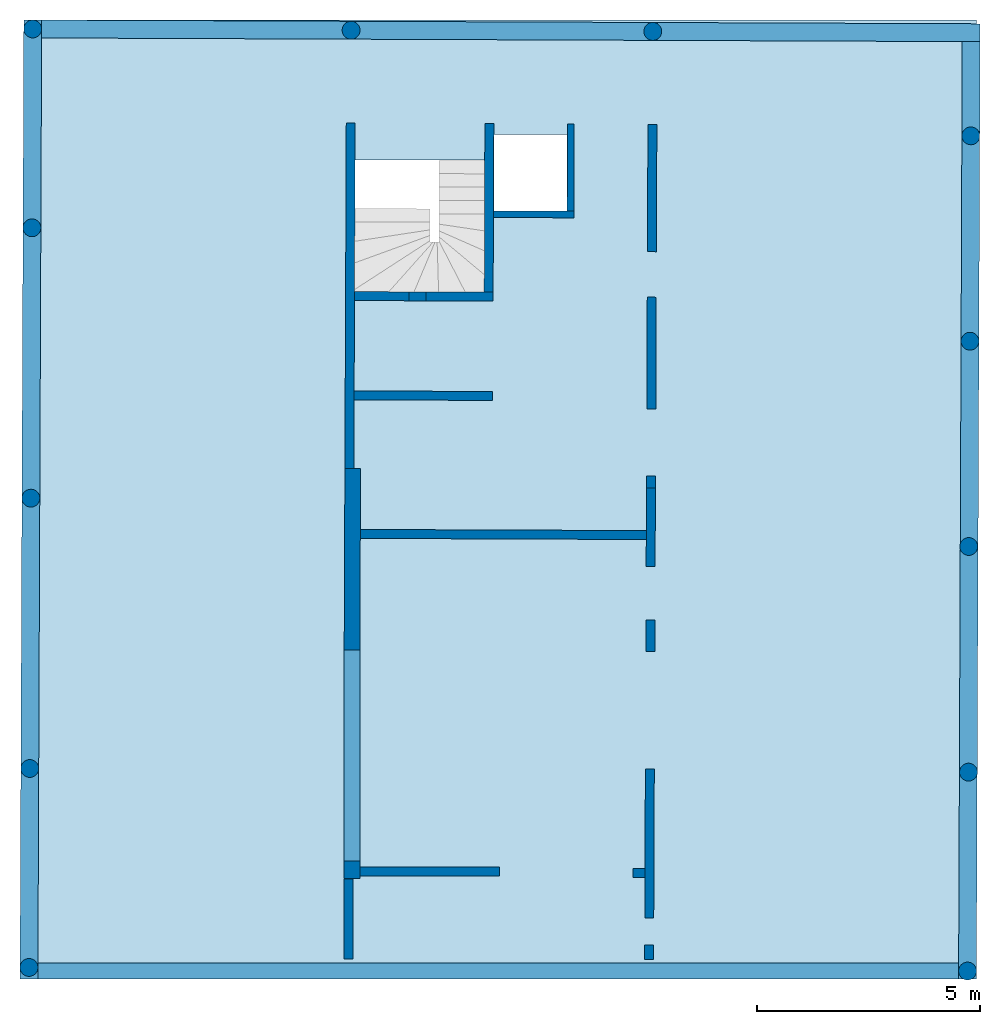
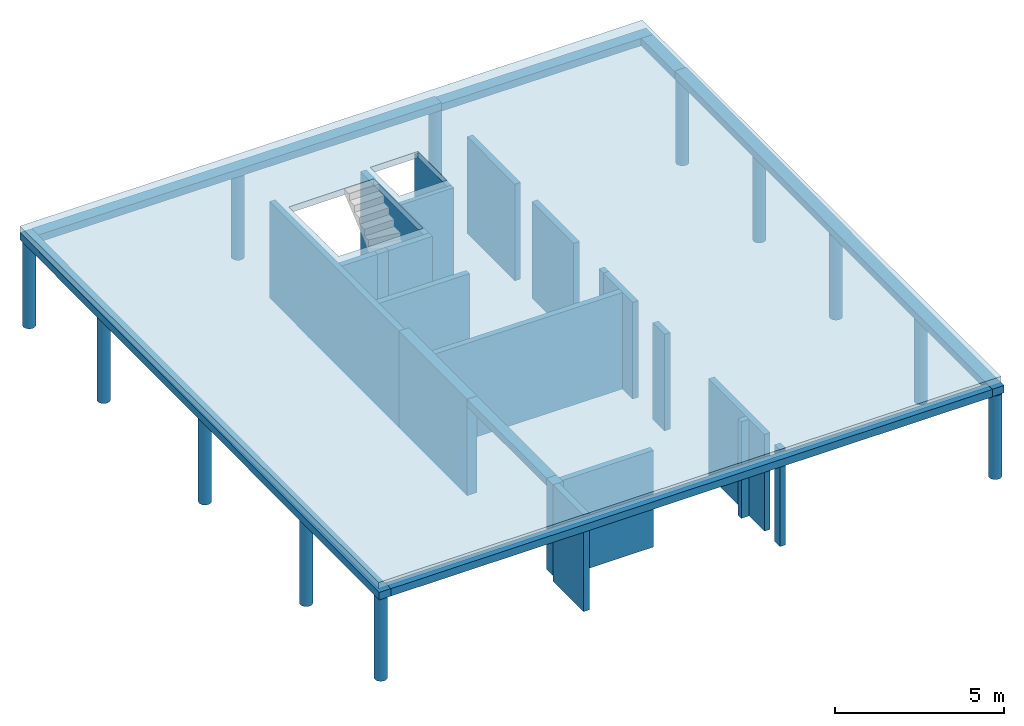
# One storey, part 1 of 2: 20 walls, 13 columns, 7 beams, 1 slab, 2 openings.
"""IFC2X3 building model written with IfcOpenShell, lengths in millimetres."""

import ifcopenshell
import ifcopenshell.guid

model = None  # the IFC model being written
_history = None  # IfcOwnerHistory: only IFC2X3 demands one
_inside = {}  # id of a spatial element -> (the spatial element, [elements in it])
_under = {}  # id of a project, library or spatial element -> (it, [spatial elements below it])
_declared = {}  # id of a project -> (the project, [libraries it declares])
_typed = {}  # id of a type object -> (the type object, [elements of that type])
_made_of = {}  # id of a material, layer set ... -> (it, [elements and type objects made of it])


def new_model(schema):
    """Start an empty IFC model of exactly this schema.

    Asked for "IFC4X3", IfcOpenShell would pick the latest addendum, in which some entities
    have other attributes; the version numbers below select the first issue.
    IFC2X3 requires an IfcOwnerHistory on every rooted entity: one is made here for all.
    """
    global model, _history
    if schema == "IFC4X3":
        model = ifcopenshell.file(schema_version=(4, 3, 0, 0))
    else:
        model = ifcopenshell.file(schema=schema)
    _inside.clear()
    _under.clear()
    _declared.clear()
    _typed.clear()
    _made_of.clear()
    _history = None
    if model.schema == "IFC2X3":
        org = make("IfcOrganization", Name="unknown")
        user = make(
            "IfcPersonAndOrganization",
            ThePerson=make("IfcPerson", FamilyName="unknown"),
            TheOrganization=org,
        )
        app = make(
            "IfcApplication",
            ApplicationDeveloper=org,
            Version="unknown",
            ApplicationFullName="unknown",
            ApplicationIdentifier="unknown",
        )
        _history = make(
            "IfcOwnerHistory",
            OwningUser=user,
            OwningApplication=app,
            ChangeAction="ADDED",
            CreationDate=0,
        )
    return model


def make(cls, **values):
    """One entity of the class cls with the attributes given. An attribute that is None is left unset."""
    return model.create_entity(
        cls, **{name: value for name, value in values.items() if value is not None}
    )


def entity(cls, *values):
    """Any entity or typed value of the class cls, its attributes in the order of the schema. None: left unset."""
    e = model.create_entity(cls)
    for i, value in enumerate(values):
        if value is not None:
            e[i] = value
    return e


def rooted(cls, **values):
    """An entity with a GlobalId (a new one), such as an element, a storey or a relation."""
    return make(cls, GlobalId=ifcopenshell.guid.new(), OwnerHistory=_history, **values)


def si_unit(unit_type, name, prefix=None):
    """IfcSIUnit, for example si_unit("LENGTHUNIT", "METRE", prefix="MILLI")."""
    return make("IfcSIUnit", UnitType=unit_type, Prefix=prefix, Name=name)


def converted_unit(unit_type, name, factor, base, dimensions=None, offset=None):
    """IfcConversionBasedUnit, such as the inch: factor (a typed value) times the base unit."""
    return make(
        "IfcConversionBasedUnit"
        if offset is None
        else "IfcConversionBasedUnitWithOffset",
        ConversionOffset=offset,
        Dimensions=None
        if dimensions is None
        else entity("IfcDimensionalExponents", *dimensions),
        UnitType=unit_type,
        Name=name,
        ConversionFactor=make(
            "IfcMeasureWithUnit", ValueComponent=factor, UnitComponent=base
        ),
    )


def assignment(units):
    """IfcUnitAssignment: the units of a project."""
    return None if units is None else make("IfcUnitAssignment", Units=units)


def point(xyz):
    """IfcCartesianPoint."""
    return None if xyz is None else make("IfcCartesianPoint", Coordinates=xyz)


def direction(xyz):
    """IfcDirection."""
    return None if xyz is None else make("IfcDirection", DirectionRatios=xyz)


def frame(location, z_axis=None, x_axis=None):
    """IfcAxis2Placement3D, a coordinate frame: its origin and axes. An axis left out is left unset."""
    return make(
        "IfcAxis2Placement3D",
        Location=point(location),
        Axis=direction(z_axis),
        RefDirection=direction(x_axis),
    )


def frame_2d(location, x_axis=None):
    """IfcAxis2Placement2D, a coordinate frame in the plane: its origin and x axis."""
    return make(
        "IfcAxis2Placement2D", Location=point(location), RefDirection=direction(x_axis)
    )


def origin():
    """The frame at (0, 0, 0) with its axes left unset."""
    return frame((0.0, 0.0, 0.0))


def origin_with_axes():
    """The frame at (0, 0, 0) with the z axis (0, 0, 1) and the x axis (1, 0, 0) written out."""
    return frame((0.0, 0.0, 0.0), z_axis=(0.0, 0.0, 1.0), x_axis=(1.0, 0.0, 0.0))


def place(relative_to, where):
    """IfcLocalPlacement: puts the frame where relative to a parent placement (None: the world)."""
    return make(
        "IfcLocalPlacement", PlacementRelTo=relative_to, RelativePlacement=where
    )


def context(
    kind, dimensions, precision=None, world=None, true_north=None, identifier=None
):
    """IfcGeometricRepresentationContext, for example the 3D "Model" context."""
    return make(
        "IfcGeometricRepresentationContext",
        ContextIdentifier=identifier,
        ContextType=kind,
        CoordinateSpaceDimension=dimensions,
        Precision=precision,
        WorldCoordinateSystem=world,
        TrueNorth=true_north,
    )


def subcontext(parent, identifier, kind, view, scale=None):
    """IfcGeometricRepresentationSubContext, for example "Body" below "Model"."""
    return make(
        "IfcGeometricRepresentationSubContext",
        ContextIdentifier=identifier,
        ContextType=kind,
        ParentContext=parent,
        TargetScale=scale,
        TargetView=view,
    )


def project(units=None, contexts=None):
    """IfcProject with its units and contexts."""
    return rooted(
        "IfcProject",
        Name="project",
        RepresentationContexts=contexts,
        UnitsInContext=assignment(units),
    )


def spatial(cls, under=None, at=None, **own):
    """A site, building, storey or space (cls), placed at a placement, below another one or the project."""
    s = rooted(cls, ObjectPlacement=at, **own)
    if under is not None:
        _under.setdefault(under.id(), (under, []))[1].append(s)
    return s


def polyline(points):
    """IfcPolyline through the points."""
    return make("IfcPolyline", Points=[point(p) for p in points])


def profile(cls, at=None, kind="AREA", **sizes):
    """A parametric profile (cls). Its sizes go by their IFC names, for example OverallWidth=200.0."""
    return make(cls, ProfileType=kind, Position=at, **sizes)


def rectangle(**sizes):
    """IfcRectangleProfileDef."""
    return profile("IfcRectangleProfileDef", **sizes)


def circle(**sizes):
    """IfcCircleProfileDef."""
    return profile("IfcCircleProfileDef", **sizes)


def outline(outer, holes=None, kind="AREA"):
    """IfcArbitraryClosedProfileDef: a profile drawn as a closed curve; with holes, ...WithVoids."""
    if holes is None:
        return make("IfcArbitraryClosedProfileDef", ProfileType=kind, OuterCurve=outer)
    return make(
        "IfcArbitraryProfileDefWithVoids",
        ProfileType=kind,
        OuterCurve=outer,
        InnerCurves=holes,
    )


def extrude(swept, where, along, depth):
    """IfcExtrudedAreaSolid: the profile swept, set in the frame where, extruded along a direction by depth."""
    return make(
        "IfcExtrudedAreaSolid",
        SweptArea=swept,
        Position=where,
        ExtrudedDirection=direction(along),
        Depth=depth,
    )


def faces_of(points, faces, orient=None, outer=None):
    """IfcFace entities. A face is a list of loops; a loop is a list of indices into points, from 0.

    orient and outer hold one flag for each loop. By default every Orientation is true, the
    first loop of a face is its IfcFaceOuterBound and the others are IfcFaceBound.
    """
    made = []
    for i, loops in enumerate(faces):
        bounds = []
        for j, loop in enumerate(loops):
            is_outer = j == 0 if outer is None else outer[i][j]
            bounds.append(
                make(
                    "IfcFaceOuterBound" if is_outer else "IfcFaceBound",
                    Bound=make("IfcPolyLoop", Polygon=[points[k] for k in loop]),
                    Orientation=True if orient is None else orient[i][j],
                )
            )
        made.append(make("IfcFace", Bounds=bounds))
    return made


def faceted_brep(points, faces, orient=None, outer=None, voids=None):
    """IfcFacetedBrep: a solid bounded by flat faces; with voids (closed shells), ...WithVoids."""
    shared = [point(p) for p in points]
    hull = make("IfcClosedShell", CfsFaces=faces_of(shared, faces, orient, outer))
    if voids is None:
        return make("IfcFacetedBrep", Outer=hull)
    return make(
        "IfcFacetedBrepWithVoids",
        Outer=hull,
        Voids=[
            make(cls, CfsFaces=faces_of(shared, fs, o, b)) for cls, fs, o, b in voids
        ],
    )


def shape(context_of_items, identifier, shape_type, items):
    """IfcShapeRepresentation: the items that make up one representation, for example the "Body"."""
    return make(
        "IfcShapeRepresentation",
        ContextOfItems=context_of_items,
        RepresentationIdentifier=identifier,
        RepresentationType=shape_type,
        Items=items,
    )


def material(Name=None, Category=None):
    """IfcMaterial."""
    return make("IfcMaterial", Name=Name, Category=Category)


def layer(
    of_material, thickness, ventilated=None, Name=None, Category=None, Priority=None
):
    """IfcMaterialLayer: one layer of a wall or slab, of a material (None: an air gap)."""
    return make(
        "IfcMaterialLayer",
        Material=of_material,
        LayerThickness=thickness,
        IsVentilated=ventilated,
        Name=Name,
        Category=Category,
        Priority=Priority,
    )


def layer_set(layers, Name=None):
    """IfcMaterialLayerSet."""
    return make("IfcMaterialLayerSet", MaterialLayers=layers, LayerSetName=Name)


def layer_usage(for_layer_set, set_direction, sense, offset, extent=None):
    """IfcMaterialLayerSetUsage: how a layer set lies in its element."""
    return make(
        "IfcMaterialLayerSetUsage",
        ForLayerSet=for_layer_set,
        LayerSetDirection=set_direction,
        DirectionSense=sense,
        OffsetFromReferenceLine=offset,
        ReferenceExtent=extent,
    )


def made_of(thing, what):
    """Note that an element or type object is made of a material, layer set ...; save() writes the relation."""
    if what is not None:
        _made_of.setdefault(what.id(), (what, []))[1].append(thing)
    return thing


def element(
    cls,
    number,
    at=None,
    inside=None,
    cuts=None,
    type_object=None,
    material=None,
    context=None,
    identifier="Body",
    shape_type=None,
    held_by="IfcProductDefinitionShape",
    body=None,
    shapes=None,
    **own,
):
    """One element of the class cls, such as IfcWall. Its Tag is "e" and its number.

    at: its placement. inside: the storey or other place that contains it. cuts: it is an
    opening in that element (IfcRelVoidsElement). A single representation is given by context,
    identifier, shape_type and body (its items); several are given by shapes. held_by: the class
    of the entity that holds the representations. save() writes the other relations.
    """
    e = rooted(cls, Tag="e%d" % number, ObjectPlacement=at, **own)
    if body is not None:
        shapes = [shape(context, identifier, shape_type, body)]
    if shapes is not None:
        e.Representation = make(held_by, Representations=shapes)
    if inside is not None:
        _inside.setdefault(inside.id(), (inside, []))[1].append(e)
    if cuts is not None:
        rooted(
            "IfcRelVoidsElement", RelatingBuildingElement=cuts, RelatedOpeningElement=e
        )
    if type_object is not None:
        _typed.setdefault(type_object.id(), (type_object, []))[1].append(e)
    return made_of(e, material)


def aggregate(whole, parts):
    """IfcRelAggregates: a whole, such as a stair, and the parts it consists of."""
    return rooted("IfcRelAggregates", RelatingObject=whole, RelatedObjects=parts)


def save(model, path):
    """Write the relations noted so far, then the file.

    IfcRelAggregates (storeys below a building ...), IfcRelContainedInSpatialStructure (elements
    in a storey), IfcRelDefinesByType, IfcRelAssociatesMaterial and IfcRelDeclares: one each for
    every whole, place, type object, material and project.
    """
    for whole, parts in _under.values():
        aggregate(whole, parts)
    for where, things in _inside.values():
        rooted(
            "IfcRelContainedInSpatialStructure",
            RelatedElements=things,
            RelatingStructure=where,
        )
    for kind, things in _typed.values():
        rooted("IfcRelDefinesByType", RelatedObjects=things, RelatingType=kind)
    for what, things in _made_of.values():
        rooted("IfcRelAssociatesMaterial", RelatedObjects=things, RelatingMaterial=what)
    for by, libraries in _declared.values():
        rooted("IfcRelDeclares", RelatingContext=by, RelatedDefinitions=libraries)
    model.write(path)


model = new_model("IFC2X3")

# Units and contexts
model_context = context("Model", 3, precision=1e-05, world=origin())
body_context = subcontext(model_context, "Body", "Model", "MODEL_VIEW")
ifc_project = project(units=[si_unit("LENGTHUNIT", "METRE", prefix="MILLI"), converted_unit("PLANEANGLEUNIT", "DEGREE", entity("IfcPlaneAngleMeasure", 0.0174532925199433), si_unit("PLANEANGLEUNIT", "RADIAN"), dimensions=[0, 0, 0, 0, 0, 0, 0]), si_unit("AREAUNIT", "SQUARE_METRE"), si_unit("VOLUMEUNIT", "CUBIC_METRE")], contexts=[model_context])

# Building, storey
building_placement = place(None, origin())
building = spatial("IfcBuilding", under=ifc_project, at=building_placement, Name="Bâtiment", CompositionType="ELEMENT")
storey_placement = place(building_placement, frame((0.0, 0.0, 1760.0), z_axis=(0.0, 0.0, 1.0), x_axis=(1.0, 0.0, 0.0)))
storey = spatial("IfcBuildingStorey", under=building, at=storey_placement, Name="Rez-de-chaussée", CompositionType="ELEMENT", Elevation=1760.0)

# Columns
ifc_material_1 = material(Name="<Unnamed Material>")
column_1_placement = place(storey_placement, frame((4824.08369014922, -29850.54508796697, 0.0), z_axis=(0.0, 0.0, 1.0), x_axis=(1.0, 0.0, 0.0)))
element("IfcColumn", 1, at=column_1_placement, inside=storey, material=ifc_material_1, Name="<Unnamed Element>", context=body_context, shape_type="SweptSolid", body=[
    extrude(rectangle(XDim=352.0, YDim=400.0, at=frame_2d((176.0, 200.0), x_axis=(1.0, 0.0))), origin_with_axes(), (0.0, 0.0, 1.0), 3299.999999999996),
])
ifc_material_2 = material(Name="<Unnamed Material>")
column_2_placement = place(storey_placement, frame((18573.58631007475, -32115.91258137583, 0.0), z_axis=(0.0, 0.0, 1.0), x_axis=(1.0, 0.0, 0.0)))
element("IfcColumn", 2, at=column_2_placement, inside=storey, material=ifc_material_2, Name="<Unnamed Element>", context=body_context, shape_type="SweptSolid", body=[
    extrude(circle(Radius=200.0000000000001, at=frame_2d((199.1744731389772, 199.1744731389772), x_axis=(1.0, 0.0))), origin_with_axes(), (0.0, 0.0, 1.0), 3029.999999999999),
])
ifc_material_3 = material(Name="<Unnamed Material>")
column_3_placement = place(storey_placement, frame((18595.41901068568, -27664.52265680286, 0.0), z_axis=(0.0, 0.0, 1.0), x_axis=(1.0, 0.0, 0.0)))
element("IfcColumn", 3, at=column_3_placement, inside=storey, material=ifc_material_3, Name="<Unnamed Element>", context=body_context, shape_type="SweptSolid", body=[
    extrude(circle(Radius=200.0000000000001, at=frame_2d((199.1744731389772, 199.1744731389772), x_axis=(1.0, 0.0))), origin_with_axes(), (0.0, 0.0, 1.0), 3029.999999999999),
])
ifc_material_4 = material(Name="<Unnamed Material>")
column_4_placement = place(storey_placement, frame((18600.61037819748, -22616.15837801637, 0.0), z_axis=(0.0, 0.0, 1.0), x_axis=(1.0, 0.0, 0.0)))
element("IfcColumn", 4, at=column_4_placement, inside=storey, material=ifc_material_4, Name="<Unnamed Element>", context=body_context, shape_type="SweptSolid", body=[
    extrude(circle(Radius=200.0000000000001, at=frame_2d((199.1744731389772, 199.1744731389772), x_axis=(1.0, 0.0))), origin_with_axes(), (0.0, 0.0, 1.0), 3029.999999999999),
])
ifc_material_5 = material(Name="<Unnamed Material>")
column_5_placement = place(storey_placement, frame((18628.31706573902, -18021.95664196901, 0.0), z_axis=(0.0, 0.0, 1.0), x_axis=(1.0, 0.0, 0.0)))
element("IfcColumn", 5, at=column_5_placement, inside=storey, material=ifc_material_5, Name="<Unnamed Element>", context=body_context, shape_type="SweptSolid", body=[
    extrude(circle(Radius=200.0000000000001, at=frame_2d((199.1744731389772, 199.1744731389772), x_axis=(1.0, 0.0))), origin_with_axes(), (0.0, 0.0, 1.0), 3029.999999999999),
])
ifc_material_6 = material(Name="<Unnamed Material>")
column_6_placement = place(storey_placement, frame((18646.50568336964, -13426.62232765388, 0.0), z_axis=(0.0, 0.0, 1.0), x_axis=(1.0, 0.0, 0.0)))
element("IfcColumn", 6, at=column_6_placement, inside=storey, material=ifc_material_6, Name="<Unnamed Element>", context=body_context, shape_type="SweptSolid", body=[
    extrude(circle(Radius=200.0000000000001, at=frame_2d((199.1744731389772, 199.1744731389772), x_axis=(1.0, 0.0))), origin_with_axes(), (0.0, 0.0, 1.0), 3029.999999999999),
])
ifc_material_7 = material(Name="<Unnamed Material>")
column_7_placement = place(storey_placement, frame((11529.83394445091, -11090.19700913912, 0.0), z_axis=(0.0, 0.0, 1.0), x_axis=(1.0, 0.0, 0.0)))
element("IfcColumn", 7, at=column_7_placement, inside=storey, material=ifc_material_7, Name="<Unnamed Element>", context=body_context, shape_type="SweptSolid", body=[
    extrude(circle(Radius=200.0000000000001, at=frame_2d((199.1744731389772, 199.1744731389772), x_axis=(1.0, 0.0))), origin_with_axes(), (0.0, 0.0, 1.0), 3029.999999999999),
])
ifc_material_8 = material(Name="<Unnamed Material>")
column_8_placement = place(storey_placement, frame((4779.729891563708, -11063.47967952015, 0.0), z_axis=(0.0, 0.0, 1.0), x_axis=(1.0, 0.0, 0.0)))
element("IfcColumn", 8, at=column_8_placement, inside=storey, material=ifc_material_8, Name="<Unnamed Element>", context=body_context, shape_type="SweptSolid", body=[
    extrude(circle(Radius=200.0000000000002, at=frame_2d((199.1744731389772, 199.1744731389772), x_axis=(1.0, 0.0))), origin_with_axes(), (0.0, 0.0, 1.0), 3029.999999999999),
])
ifc_material_9 = material(Name="<Unnamed Material>")
column_9_placement = place(storey_placement, frame((-2344.862463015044, -11035.28010202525, 0.0), z_axis=(0.0, 0.0, 1.0), x_axis=(1.0, 0.0, 0.0)))
element("IfcColumn", 9, at=column_9_placement, inside=storey, material=ifc_material_9, Name="<Unnamed Element>", context=body_context, shape_type="SweptSolid", body=[
    extrude(circle(Radius=200.0000000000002, at=frame_2d((199.1744731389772, 199.1744731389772), x_axis=(1.0, 0.0))), origin_with_axes(), (0.0, 0.0, 1.0), 3029.999999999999),
])
ifc_material_10 = material(Name="<Unnamed Material>")
column_10_placement = place(storey_placement, frame((-2362.472904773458, -15484.5389157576, 0.0), z_axis=(0.0, 0.0, 1.0), x_axis=(1.0, 0.0, 0.0)))
element("IfcColumn", 10, at=column_10_placement, inside=storey, material=ifc_material_10, Name="<Unnamed Element>", context=body_context, shape_type="SweptSolid", body=[
    extrude(circle(Radius=200.0000000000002, at=frame_2d((199.1744731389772, 199.1744731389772), x_axis=(1.0, 0.0))), origin_with_axes(), (0.0, 0.0, 1.0), 3029.999999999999),
])
ifc_material_11 = material(Name="<Unnamed Material>")
column_11_placement = place(storey_placement, frame((-2386.417100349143, -21534.0136912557, 0.0), z_axis=(0.0, 0.0, 1.0), x_axis=(1.0, 0.0, 0.0)))
element("IfcColumn", 11, at=column_11_placement, inside=storey, material=ifc_material_11, Name="<Unnamed Element>", context=body_context, shape_type="SweptSolid", body=[
    extrude(circle(Radius=200.0000000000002, at=frame_2d((199.1744731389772, 199.1744731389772), x_axis=(1.0, 0.0))), origin_with_axes(), (0.0, 0.0, 1.0), 3029.999999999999),
])
ifc_material_12 = material(Name="<Unnamed Material>")
column_12_placement = place(storey_placement, frame((-2427.980234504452, -32034.89399305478, 0.0), z_axis=(0.0, 0.0, 1.0), x_axis=(1.0, 0.0, 0.0)))
element("IfcColumn", 12, at=column_12_placement, inside=storey, material=ifc_material_12, Name="<Unnamed Element>", context=body_context, shape_type="SweptSolid", body=[
    extrude(circle(Radius=200.0000000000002, at=frame_2d((199.1744731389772, 199.1744731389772), x_axis=(1.0, 0.0))), origin_with_axes(), (0.0, 0.0, 1.0), 3029.999999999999),
])
ifc_material_13 = material(Name="<Unnamed Material>")
column_13_placement = place(storey_placement, frame((-2410.361295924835, -27583.4884667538, 0.0), z_axis=(0.0, 0.0, 1.0), x_axis=(1.0, 0.0, 0.0)))
element("IfcColumn", 13, at=column_13_placement, inside=storey, material=ifc_material_13, Name="<Unnamed Element>", context=body_context, shape_type="SweptSolid", body=[
    extrude(circle(Radius=200.0000000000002, at=frame_2d((199.1744731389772, 199.1744731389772), x_axis=(1.0, 0.0))), origin_with_axes(), (0.0, 0.0, 1.0), 3029.999999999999),
])

# Beams
ifc_material_14 = material(Name="<Unnamed Material>")
beam_1_placement = place(storey_placement, frame((4824.08369014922, -24734.51704689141, 3030.0), z_axis=(0.0, 0.0, 1.0), x_axis=(0.0, -1.0, 0.0)))
element("IfcBeam", 14, at=beam_1_placement, inside=storey, material=ifc_material_14, Name="<Unnamed Element>", context=body_context, shape_type="SweptSolid", body=[
    extrude(rectangle(XDim=270.0, YDim=350.0000000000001, at=frame_2d((135.0, -175.0), x_axis=(1.0, 0.0))), frame((0.0, 0.0, 0.0), z_axis=(1.0, 0.0, 0.0), x_axis=(0.0, 0.0, 1.0)), (0.0, 0.0, 1.0), 4716.028041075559),
])
ifc_material_15 = material(Name="<Unnamed Material>")
beam_2_placement = place(storey_placement, frame((-1946.481162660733, -11036.89566845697, 3040.0), z_axis=(0.0, 0.0, 1.0), x_axis=(0.9999921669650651, -0.003958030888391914, 0.0)))
element("IfcBeam", 15, at=beam_2_placement, inside=storey, material=ifc_material_15, Name="<Unnamed Element>", context=body_context, shape_type="SweptSolid", body=[
    extrude(rectangle(XDim=270.0, YDim=400.0000000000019, at=frame_2d((135.0, -200.0000000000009), x_axis=(1.0, 0.0))), frame((0.0, 0.0, 0.0), z_axis=(1.0, 0.0, 0.0), x_axis=(0.0, 0.0, 1.0)), (0.0, 0.0, 1.0), 13774.80508929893),
])
ifc_material_16 = material(Name="<Unnamed Material>")
beam_3_placement = place(storey_placement, frame((-2029.817532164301, -32091.73810823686, 3030.0), z_axis=(0.0, 0.0, 1.0), x_axis=(0.003958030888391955, 0.999992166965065, 0.0)))
element("IfcBeam", 16, at=beam_3_placement, inside=storey, material=ifc_material_16, Name="<Unnamed Element>", context=body_context, shape_type="Brep", body=[
    faceted_brep([(-1.583224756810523, 400.0000000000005, 0.0), (0.0, 0.0, 0.0), (21455.00736438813, 0.0, 0.0), (21455.00736438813, 400.0, 0.0), (0.0, 0.0, 270.0), (-1.583224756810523, 400.0000000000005, 270.0), (21455.00736438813, 400.0, 270.0), (21455.00736438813, 0.0, 270.0), (0.0, 0.0, 0.0), (-1.583224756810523, 400.0000000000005, 0.0), (-1.583224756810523, 400.0000000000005, 270.0), (0.0, 0.0, 270.0), (21455.00736438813, 0.0, 0.0), (0.0, 0.0, 0.0), (0.0, 0.0, 270.0), (21455.00736438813, 0.0, 270.0), (21455.00736438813, 400.0, 0.0), (21455.00736438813, 0.0, 0.0), (21455.00736438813, 0.0, 270.0), (21455.00736438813, 400.0, 270.0), (-1.583224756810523, 400.0000000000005, 0.0), (21455.00736438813, 400.0, 0.0), (21455.00736438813, 400.0, 270.0), (-1.583224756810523, 400.0000000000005, 270.0)], [[[0, 1, 2, 3]], [[4, 5, 6, 7]], [[8, 9, 10, 11]], [[12, 13, 14, 15]], [[16, 17, 18, 19]], [[20, 21, 22, 23]]], orient=[[False], [False], [False], [False], [False], [False]]),
])
ifc_material_17 = material(Name="<Unnamed Material>")
beam_4_placement = place(storey_placement, frame((18646.06880084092, -13127.4478545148, 3040.0), z_axis=(0.0, 0.0, 1.0), x_axis=(-0.003901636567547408, -0.9999923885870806, 0.0)))
element("IfcBeam", 17, at=beam_4_placement, inside=storey, material=ifc_material_17, Name="<Unnamed Element>", context=body_context, shape_type="Brep", body=[
    faceted_brep([(-0.6488907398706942, 400.0000000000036, 0.0), (0.0, 0.0, 0.0), (18964.43459986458, 0.0, 0.0), (18962.87393335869, 399.9999999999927, 0.0), (0.0, 0.0, 270.0), (-0.6488907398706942, 400.0000000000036, 270.0), (18962.87393335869, 399.9999999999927, 270.0), (18964.43459986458, 0.0, 270.0), (0.0, 0.0, 0.0), (-0.6488907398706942, 400.0000000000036, 0.0), (-0.6488907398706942, 400.0000000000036, 270.0), (0.0, 0.0, 270.0), (18964.43459986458, 0.0, 0.0), (0.0, 0.0, 0.0), (0.0, 0.0, 270.0), (18964.43459986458, 0.0, 270.0), (18962.87393335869, 399.9999999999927, 0.0), (18964.43459986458, 0.0, 0.0), (18964.43459986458, 0.0, 270.0), (18962.87393335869, 399.9999999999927, 270.0), (-0.6488907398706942, 400.0000000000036, 0.0), (18962.87393335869, 399.9999999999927, 0.0), (18962.87393335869, 399.9999999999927, 270.0), (-0.6488907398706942, 400.0000000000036, 270.0)], [[[0, 1, 2, 3]], [[4, 5, 6, 7]], [[8, 9, 10, 11]], [[12, 13, 14, 15]], [[16, 17, 18, 19]], [[20, 21, 22, 23]]], orient=[[False], [False], [False], [False], [False], [False]]),
])
ifc_material_18 = material(Name="<Unnamed Material>")
beam_5_placement = place(storey_placement, frame((19047.65105909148, -10719.98860992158, 3000.0), z_axis=(0.0, 0.0, 1.0), x_axis=(-0.999992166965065, 0.003958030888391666, 0.0)))
element("IfcBeam", 18, at=beam_5_placement, inside=storey, material=ifc_material_18, Name="<Unnamed Element>", context=body_context, shape_type="Brep", body=[
    faceted_brep([(-1.320343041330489, 400.0000000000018, 0.0), (0.0, 0.0, 0.0), (7217.90835675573, 1.818989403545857e-12, 0.0), (7217.90835675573, 400.0000000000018, 0.0), (0.0, 0.0, 270.0), (-1.320343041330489, 400.0000000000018, 270.0), (7217.90835675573, 400.0000000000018, 270.0), (7217.90835675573, 1.818989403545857e-12, 270.0), (0.0, 0.0, 0.0), (-1.320343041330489, 400.0000000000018, 0.0), (-1.320343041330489, 400.0000000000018, 270.0), (0.0, 0.0, 270.0), (7217.90835675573, 1.818989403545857e-12, 0.0), (0.0, 0.0, 0.0), (0.0, 0.0, 270.0), (7217.90835675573, 1.818989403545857e-12, 270.0), (7217.90835675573, 400.0000000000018, 0.0), (7217.90835675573, 1.818989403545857e-12, 0.0), (7217.90835675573, 1.818989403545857e-12, 270.0), (7217.90835675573, 400.0000000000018, 270.0), (-1.320343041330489, 400.0000000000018, 0.0), (7217.90835675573, 400.0000000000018, 0.0), (7217.90835675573, 400.0000000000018, 270.0), (-1.320343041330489, 400.0000000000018, 270.0)], [[[0, 1, 2, 3]], [[4, 5, 6, 7]], [[8, 9, 10, 11]], [[12, 13, 14, 15]], [[16, 17, 18, 19]], [[20, 21, 22, 23]]], orient=[[False], [False], [False], [False], [False], [False]]),
])
ifc_material_19 = material(Name="<Unnamed Material>")
beam_6_placement = place(storey_placement, frame((19046.06828801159, -13128.35962334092, 3000.0), z_axis=(0.0, 0.0, 1.0), x_axis=(0.0006571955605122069, 0.9999997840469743, 0.0)))
element("IfcBeam", 19, at=beam_6_placement, inside=storey, material=ifc_material_19, Name="<Unnamed Element>", context=body_context, shape_type="Brep", body=[
    faceted_brep([(0.6488907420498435, 400.0, 0.0), (0.0, 0.0, 0.0), (2008.369354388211, 0.0, 0.0), (2009.689697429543, 400.0, 0.0), (0.0, 0.0, 270.0), (0.6488907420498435, 400.0, 270.0), (2009.689697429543, 400.0, 270.0), (2008.369354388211, 0.0, 270.0), (0.0, 0.0, 0.0), (0.6488907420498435, 400.0, 0.0), (0.6488907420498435, 400.0, 270.0), (0.0, 0.0, 270.0), (2008.369354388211, 0.0, 0.0), (0.0, 0.0, 0.0), (0.0, 0.0, 270.0), (2008.369354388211, 0.0, 270.0), (2009.689697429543, 400.0, 0.0), (2008.369354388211, 0.0, 0.0), (2008.369354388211, 0.0, 270.0), (2009.689697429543, 400.0, 270.0), (0.6488907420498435, 400.0, 0.0), (2009.689697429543, 400.0, 0.0), (2009.689697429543, 400.0, 270.0), (0.6488907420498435, 400.0, 270.0)], [[[0, 1, 2, 3]], [[4, 5, 6, 7]], [[8, 9, 10, 11]], [[12, 13, 14, 15]], [[16, 17, 18, 19]], [[20, 21, 22, 23]]], orient=[[False], [False], [False], [False], [False], [False]]),
])
ifc_material_20 = material(Name="<Unnamed Material>")
beam_7_placement = place(storey_placement, frame((-2029.817532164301, -32091.73810823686, 3030.0), z_axis=(0.0, 0.0, 1.0), x_axis=(1.0, 0.0, 0.0)))
element("IfcBeam", 20, at=beam_7_placement, inside=storey, material=ifc_material_20, Name="<Unnamed Element>", context=body_context, shape_type="Brep", body=[
    faceted_brep([(1.385321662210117, 350.0, 0.0), (0.0, 0.0, 0.0), (20601.89400148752, 0.0, 0.0), (20603.25958468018, 350.0, 0.0), (0.0, 0.0, 270.0), (1.385321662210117, 350.0, 270.0), (20603.25958468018, 350.0, 270.0), (20601.89400148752, 0.0, 270.0), (0.0, 0.0, 0.0), (1.385321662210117, 350.0, 0.0), (1.385321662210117, 350.0, 270.0), (0.0, 0.0, 270.0), (20601.89400148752, 0.0, 0.0), (0.0, 0.0, 0.0), (0.0, 0.0, 270.0), (20601.89400148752, 0.0, 270.0), (20603.25958468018, 350.0, 0.0), (20601.89400148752, 0.0, 0.0), (20601.89400148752, 0.0, 270.0), (20603.25958468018, 350.0, 270.0), (1.385321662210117, 350.0, 0.0), (20603.25958468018, 350.0, 0.0), (20603.25958468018, 350.0, 270.0), (1.385321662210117, 350.0, 270.0)], [[[0, 1, 2, 3]], [[4, 5, 6, 7]], [[8, 9, 10, 11]], [[12, 13, 14, 15]], [[16, 17, 18, 19]], [[20, 21, 22, 23]]], orient=[[False], [False], [False], [False], [False], [False]]),
])

# Slab, openings
ifc_material_21 = material(Name="<Unnamed Material>")
ifc_layer_1 = layer(ifc_material_21, 230.0)
ifc_layer_set_1 = layer_set([ifc_layer_1])
ifc_layer_usage_1 = layer_usage(ifc_layer_set_1, "AXIS3", "POSITIVE", 0.0)
slab_placement = place(storey_placement, frame((-2344.894817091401, -10635.31558931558, 3300.0), z_axis=(0.0, 0.0, 1.0), x_axis=(1.0, 0.0, 0.0)))
slab = element("IfcSlab", 21, at=slab_placement, inside=storey, material=ifc_layer_usage_1, Name="<Unnamed Element>", PredefinedType="FLOOR", context=body_context, shape_type="SweptSolid", body=[
    extrude(rectangle(XDim=21282.20284623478, YDim=21317.65407802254, at=frame_2d((10658.82703901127, -10641.10142311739), x_axis=(0.0, -1.0))), origin_with_axes(), (0.0, 0.0, 1.0), 230.0),
])
opening_1_placement = place(slab_placement, frame((7400.650176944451, -6077.758229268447, 0.0), z_axis=(0.0, 0.0, 1.0), x_axis=(1.0, 0.0, 0.0)))
element("IfcOpeningElement", 22, at=opening_1_placement, cuts=slab, Name="Trémie dans dalle", ObjectType="Opening", context=body_context, shape_type="SweptSolid", body=[
    extrude(rectangle(XDim=2900.0, YDim=2950.0, at=frame_2d((1450.0, 1475.0), x_axis=(0.9999999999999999, 0.0))), origin_with_axes(), (0.0, 0.0, 1.0), 230.0),
])
opening_2_placement = place(slab_placement, frame((10516.05631432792, -2560.23532224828, 0.0), z_axis=(0.0, 0.0, 1.0), x_axis=(1.0, 0.0, 0.0)))
element("IfcOpeningElement", 23, at=opening_2_placement, cuts=slab, Name="Trémie dans dalle", ObjectType="Opening", context=body_context, shape_type="SweptSolid", body=[
    extrude(rectangle(XDim=1716.009642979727, YDim=1643.217113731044, at=frame_2d((821.6085568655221, -858.0048214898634), x_axis=(0.0, -1.0))), origin_with_axes(), (0.0, 0.0, 1.0), 230.0),
])

# Walls
ifc_material_22 = material(Name="<Unnamed Material>")
ifc_layer_2 = layer(ifc_material_22, 199.9999999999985)
ifc_layer_set_2 = layer_set([ifc_layer_2])
ifc_layer_usage_2 = layer_usage(ifc_layer_set_2, "AXIS2", "POSITIVE", -100.0)
wall_1_placement = place(storey_placement, frame((11746.82824593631, -31653.95075819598, -200.0), z_axis=(0.0, 0.0, 1.0), x_axis=(0.003958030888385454, 0.999992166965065, 0.0)))
element("IfcWallStandardCase", 24, at=wall_1_placement, inside=storey, material=ifc_layer_usage_2, Name="<Unnamed Element>", context=body_context, shape_type="SweptSolid", body=[
    extrude(rectangle(XDim=323.8619575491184, YDim=199.9999999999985, at=frame_2d((161.9309787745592, 99.99999999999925), x_axis=(1.0, 0.0))), origin_with_axes(), (0.0, 0.0, 1.0), 3500.0),
])
ifc_material_23 = material(Name="<Unnamed Material>")
ifc_layer_3 = layer(ifc_material_23, 199.9999999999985)
ifc_layer_set_3 = layer_set([ifc_layer_3])
ifc_layer_usage_3 = layer_usage(ifc_layer_set_3, "AXIS2", "POSITIVE", -100.0)
wall_2_placement = place(storey_placement, frame((11750.48942137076, -30728.95879638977, -200.0), z_axis=(0.0, 0.0, 1.0), x_axis=(0.003958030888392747, 0.999992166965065, 0.0)))
element("IfcWallStandardCase", 25, at=wall_2_placement, inside=storey, material=ifc_layer_usage_3, Name="<Unnamed Element>", context=body_context, shape_type="SweptSolid", body=[
    extrude(rectangle(XDim=3333.80936752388, YDim=199.9999999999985, at=frame_2d((1666.90468376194, 99.99999999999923), x_axis=(1.0, 0.0))), origin_with_axes(), (0.0, 0.0, 1.0), 3500.0),
])
ifc_material_24 = material(Name="<Unnamed Material>")
ifc_layer_4 = layer(ifc_material_24, 200.0)
ifc_layer_set_4 = layer_set([ifc_layer_4])
ifc_layer_usage_4 = layer_usage(ifc_layer_set_4, "AXIS2", "POSITIVE", -100.0)
wall_3_placement = place(storey_placement, frame((11290.41515283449, -29817.48559051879, -200.0), z_axis=(0.0, 0.0, 1.0), x_axis=(1.0, 0.0, 0.0)))
element("IfcWallStandardCase", 26, at=wall_3_placement, inside=storey, material=ifc_layer_usage_4, Name="<Unnamed Element>", context=body_context, shape_type="SweptSolid", body=[
    extrude(outline(polyline([(0.0, 0.0), (263.6803692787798, 0.0), (264.4719816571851, 200.0), (0.0, 200.0), (0.0, 0.0)])), origin_with_axes(), (0.0, 0.0, 1.0), 3500.0),
])
ifc_material_25 = material(Name="<Unnamed Material>")
ifc_layer_5 = layer(ifc_material_25, 199.9999999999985)
ifc_layer_set_5 = layer_set([ifc_layer_5])
ifc_layer_usage_5 = layer_usage(ifc_layer_set_5, "AXIS2", "POSITIVE", -100.0)
wall_4_placement = place(storey_placement, frame((11774.10684087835, -24762.04363643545, -200.0), z_axis=(0.0, 0.0, 1.0), x_axis=(0.003958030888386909, 0.999992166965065, 0.0)))
element("IfcWallStandardCase", 27, at=wall_4_placement, inside=storey, material=ifc_layer_usage_5, Name="<Unnamed Element>", context=body_context, shape_type="SweptSolid", body=[
    extrude(rectangle(XDim=700.6406867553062, YDim=199.9999999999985, at=frame_2d((350.3203433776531, 99.99999999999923), x_axis=(1.0, 0.0))), origin_with_axes(), (0.0, 0.0, 1.0), 3500.0),
])
ifc_material_26 = material(Name="<Unnamed Material>")
ifc_layer_6 = layer(ifc_material_26, 199.9999999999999)
ifc_layer_set_6 = layer_set([ifc_layer_6])
ifc_layer_usage_6 = layer_usage(ifc_layer_set_6, "AXIS2", "POSITIVE", -100.0)
wall_5_placement = place(storey_placement, frame((11781.63038568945, -22861.2282826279, -200.0), z_axis=(0.0, 0.0, 1.0), x_axis=(0.003948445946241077, 0.9999922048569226, 0.0)))
element("IfcWallStandardCase", 28, at=wall_5_placement, inside=storey, material=ifc_layer_usage_6, Name="<Unnamed Element>", context=body_context, shape_type="SweptSolid", body=[
    extrude(outline(polyline([(0.0, 0.0), (1750.493968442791, -8.881784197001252e-16), (1750.50116826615, 199.9999999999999), (-3.101408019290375e-12, 199.9999999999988), (0.0, 0.0)])), origin_with_axes(), (0.0, 0.0, 1.0), 3500.0),
])
ifc_material_27 = material(Name="<Unnamed Material>")
ifc_layer_7 = layer(ifc_material_27, 199.9999999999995)
ifc_layer_set_7 = layer_set([ifc_layer_7])
ifc_layer_usage_7 = layer_usage(ifc_layer_set_7, "AXIS2", "POSITIVE", -100.0)
wall_6_placement = place(storey_placement, frame((11788.5421163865, -21110.74795953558, -200.0), z_axis=(0.0, 0.0, 1.0), x_axis=(0.004020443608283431, 0.9999919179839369, 0.0)))
element("IfcWallStandardCase", 29, at=wall_6_placement, inside=storey, material=ifc_layer_usage_7, Name="<Unnamed Element>", context=body_context, shape_type="SweptSolid", body=[
    extrude(rectangle(XDim=268.8283325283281, YDim=199.9999999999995, at=frame_2d((134.414166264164, 99.99999999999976), x_axis=(1.0, 0.0))), origin_with_axes(), (0.0, 0.0, 1.0), 3500.0),
])
ifc_material_28 = material(Name="<Unnamed Material>")
ifc_layer_8 = layer(ifc_material_28, 349.9999999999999)
ifc_layer_set_8 = layer_set([ifc_layer_8])
ifc_layer_usage_8 = layer_usage(ifc_layer_set_8, "AXIS2", "POSITIVE", -250.0)
wall_7_placement = place(storey_placement, frame((5174.08097552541, -24735.89553493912, -200.0), z_axis=(0.0, 0.0, 1.0), x_axis=(0.003938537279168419, 0.9999922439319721, 0.0)))
element("IfcWallStandardCase", 30, at=wall_7_placement, inside=storey, material=ifc_layer_usage_8, Name="<Unnamed Element>", context=body_context, shape_type="SweptSolid", body=[
    extrude(outline(polyline([(0.0, 0.0), (4066.174602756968, 0.0), (4066.174602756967, 149.999999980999), (4066.172653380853, 150.0000000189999), (4066.17460275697, 349.9999999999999), (1.615374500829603e-12, 349.9999999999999), (0.0, 0.0)])), origin_with_axes(), (0.0, 0.0, 1.0), 3500.0),
])
ifc_material_29 = material(Name="<Unnamed Material>")
ifc_layer_9 = layer(ifc_material_29, 200.0000000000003)
ifc_layer_set_9 = layer_set([ifc_layer_9])
ifc_layer_usage_9 = layer_usage(ifc_layer_set_9, "AXIS2", "POSITIVE", -100.0)
wall_8_placement = place(storey_placement, frame((5040.096911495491, -20669.16363847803, -200.0), z_axis=(0.0, 0.0, 1.0), x_axis=(0.0039580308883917, 0.9999921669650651, 0.0)))
element("IfcWallStandardCase", 31, at=wall_8_placement, inside=storey, material=ifc_layer_usage_9, Name="<Unnamed Element>", context=body_context, shape_type="SweptSolid", body=[
    extrude(rectangle(XDim=7725.96924051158, YDim=200.0000000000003, at=frame_2d((3862.98462025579, 100.0000000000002), x_axis=(1.0, 0.0))), origin_with_axes(), (0.0, 0.0, 1.0), 3500.0),
])
ifc_material_30 = material(Name="<Unnamed Material>")
ifc_layer_10 = layer(ifc_material_30, 199.9999999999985)
ifc_layer_set_10 = layer_set([ifc_layer_10])
ifc_layer_usage_10 = layer_usage(ifc_layer_set_10, "AXIS2", "POSITIVE", -100.0)
wall_9_placement = place(storey_placement, frame((11620.77365906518, -12971.32735176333, -200.0), z_axis=(0.0, 0.0, 1.0), x_axis=(-0.003958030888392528, -0.9999921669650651, 0.0)))
element("IfcWallStandardCase", 32, at=wall_9_placement, inside=storey, material=ifc_layer_usage_10, Name="<Unnamed Element>", context=body_context, shape_type="SweptSolid", body=[
    extrude(rectangle(XDim=2849.065168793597, YDim=199.9999999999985, at=frame_2d((1424.532584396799, 99.99999999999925), x_axis=(1.0, 0.0))), origin_with_axes(), (0.0, 0.0, 1.0), 3500.0),
])
ifc_material_31 = material(Name="<Unnamed Material>")
ifc_layer_11 = layer(ifc_material_31, 199.9999999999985)
ifc_layer_set_11 = layer_set([ifc_layer_11])
ifc_layer_usage_11 = layer_usage(ifc_layer_set_11, "AXIS2", "POSITIVE", -200.0)
wall_10_placement = place(storey_placement, frame((5054.963753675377, -16913.07225197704, -200.0), z_axis=(0.0, 0.0, 1.0), x_axis=(0.999992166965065, -0.00395803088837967, 0.0)))
element("IfcWallStandardCase", 33, at=wall_10_placement, inside=storey, material=ifc_layer_usage_11, Name="<Unnamed Element>", context=body_context, shape_type="SweptSolid", body=[
    extrude(rectangle(XDim=1220.798400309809, YDim=199.9999999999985, at=frame_2d((610.3992001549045, 99.99999999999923), x_axis=(1.0, 0.0))), origin_with_axes(), (0.0, 0.0, 1.0), 3500.0),
])
ifc_material_32 = material(Name="<Unnamed Material>")
ifc_layer_12 = layer(ifc_material_32, 199.9999999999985)
ifc_layer_set_12 = layer_set([ifc_layer_12])
ifc_layer_usage_12 = layer_usage(ifc_layer_set_12, "AXIS2", "POSITIVE", -200.0)
wall_11_placement = place(storey_placement, frame((6275.752591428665, -16917.90420975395, -200.0), z_axis=(0.0, 0.0, 1.0), x_axis=(0.9999921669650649, -0.00395803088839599, 0.0)))
element("IfcWallStandardCase", 34, at=wall_11_placement, inside=storey, material=ifc_layer_usage_12, Name="<Unnamed Element>", context=body_context, shape_type="SweptSolid", body=[
    extrude(rectangle(XDim=381.0132444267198, YDim=199.9999999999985, at=frame_2d((190.5066222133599, 99.99999999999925), x_axis=(1.0, 0.0))), origin_with_axes(), (0.0, 0.0, 1.0), 3500.0),
])
ifc_material_33 = material(Name="<Unnamed Material>")
ifc_layer_13 = layer(ifc_material_33, 199.9999999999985)
ifc_layer_set_13 = layer_set([ifc_layer_13])
ifc_layer_usage_13 = layer_usage(ifc_layer_set_13, "AXIS2", "POSITIVE", -200.0)
wall_12_placement = place(storey_placement, frame((6656.762851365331, -16919.41227194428, -200.0), z_axis=(0.0, 0.0, 1.0), x_axis=(0.999992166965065, -0.003958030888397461, 0.0)))
element("IfcWallStandardCase", 35, at=wall_12_placement, inside=storey, material=ifc_layer_usage_13, Name="<Unnamed Element>", context=body_context, shape_type="SweptSolid", body=[
    extrude(rectangle(XDim=1499.647625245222, YDim=199.9999999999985, at=frame_2d((749.8238126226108, 99.99999999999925), x_axis=(1.0, 0.0))), origin_with_axes(), (0.0, 0.0, 1.0), 3500.0),
])
ifc_material_34 = material(Name="<Unnamed Material>")
ifc_layer_14 = layer(ifc_material_34, 200.0000000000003)
ifc_layer_set_14 = layer_set([ifc_layer_14])
ifc_layer_usage_14 = layer_usage(ifc_layer_set_14, "AXIS2", "POSITIVE", -200.0)
wall_13_placement = place(storey_placement, frame((8157.190335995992, -16725.3494901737, -200.0), z_axis=(0.0, 0.0, 1.0), x_axis=(0.00395803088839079, 0.9999921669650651, 0.0)))
element("IfcWallStandardCase", 36, at=wall_13_placement, inside=storey, material=ifc_layer_usage_14, Name="<Unnamed Element>", context=body_context, shape_type="SweptSolid", body=[
    extrude(rectangle(XDim=3769.848432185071, YDim=200.0000000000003, at=frame_2d((1884.924216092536, 100.0000000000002), x_axis=(1.0, 0.0))), origin_with_axes(), (0.0, 0.0, 1.0), 3500.0),
])
ifc_material_35 = material(Name="<Unnamed Material>")
ifc_layer_15 = layer(ifc_material_35, 200.0000000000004)
ifc_layer_set_15 = layer_set([ifc_layer_15])
ifc_layer_usage_15 = layer_usage(ifc_layer_set_15, "AXIS2", "POSITIVE", -200.0)
wall_14_placement = place(storey_placement, frame((5046.166867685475, -19135.59585819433, -200.0), z_axis=(0.0, 0.0, 1.0), x_axis=(0.9999921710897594, -0.003956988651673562, 0.0)))
element("IfcWallStandardCase", 37, at=wall_14_placement, inside=storey, material=ifc_layer_usage_15, Name="<Unnamed Element>", context=body_context, shape_type="SweptSolid", body=[
    extrude(outline(polyline([(0.0, 0.0), (3100.455317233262, -1.776356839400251e-15), (3100.455317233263, 200.0000000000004), (0.0002084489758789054, 199.999999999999), (0.0, 0.0)])), origin_with_axes(), (0.0, 0.0, 1.0), 3500.0),
])
ifc_material_36 = material(Name="<Unnamed Material>")
ifc_layer_16 = layer(ifc_material_36, 200.0000000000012)
ifc_layer_set_16 = layer_set([ifc_layer_16])
ifc_layer_usage_16 = layer_usage(ifc_layer_set_16, "AXIS2", "POSITIVE", -200.0)
wall_15_placement = place(storey_placement, frame((5183.930914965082, -22235.00184149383, -200.0), z_axis=(0.0, 0.0, 1.0), x_axis=(0.9999921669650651, -0.003958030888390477, 0.0)))
element("IfcWallStandardCase", 38, at=wall_15_placement, inside=storey, material=ifc_layer_usage_16, Name="<Unnamed Element>", context=body_context, shape_type="SweptSolid", body=[
    extrude(outline(polyline([(0.0, 0.0), (6400.120662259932, -3.552713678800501e-15), (6400.118745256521, 200.0000000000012), (-0.003898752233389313, 199.9999999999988), (0.0, 0.0)])), origin_with_axes(), (0.0, 0.0, 1.0), 3500.0),
])
ifc_material_37 = material(Name="<Unnamed Material>")
ifc_layer_17 = layer(ifc_material_37, 150.0000000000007)
ifc_layer_set_17 = layer_set([ifc_layer_17])
ifc_layer_usage_17 = layer_usage(ifc_layer_set_17, "AXIS2", "POSITIVE", -150.0)
wall_16_placement = place(storey_placement, frame((8163.801569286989, -15055.0286434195, -200.0), z_axis=(0.0, 0.0, 1.0), x_axis=(0.9999921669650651, -0.003958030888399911, 0.0)))
element("IfcWallStandardCase", 39, at=wall_16_placement, inside=storey, material=ifc_layer_usage_17, Name="<Unnamed Element>", context=body_context, shape_type="SweptSolid", body=[
    extrude(rectangle(XDim=1799.996261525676, YDim=150.0000000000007, at=frame_2d((899.998130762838, 75.00000000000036), x_axis=(1.0, 0.0))), origin_with_axes(), (0.0, 0.0, 1.0), 3500.0),
])
ifc_material_38 = material(Name="<Unnamed Material>")
ifc_layer_18 = layer(ifc_material_38, 150.0000000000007)
ifc_layer_set_18 = layer_set([ifc_layer_18])
ifc_layer_usage_18 = layer_usage(ifc_layer_set_18, "AXIS2", "POSITIVE", -150.0)
wall_17_placement = place(storey_placement, frame((9964.377436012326, -14912.15425917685, -200.0), z_axis=(0.0, 0.0, 1.0), x_axis=(0.003958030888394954, 0.9999921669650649, 0.0)))
element("IfcWallStandardCase", 40, at=wall_17_placement, inside=storey, material=ifc_layer_usage_18, Name="<Unnamed Element>", context=body_context, shape_type="SweptSolid", body=[
    extrude(rectangle(XDim=1949.514501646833, YDim=150.0000000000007, at=frame_2d((974.7572508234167, 75.00000000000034), x_axis=(1.0, 0.0))), origin_with_axes(), (0.0, 0.0, 1.0), 3500.0),
])
ifc_material_39 = material(Name="<Unnamed Material>")
ifc_layer_19 = layer(ifc_material_39, 199.9999999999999)
ifc_layer_set_19 = layer_set([ifc_layer_19])
ifc_layer_usage_19 = layer_usage(ifc_layer_set_19, "AXIS2", "POSITIVE", -200.0)
wall_18_placement = place(storey_placement, frame((11796.06608967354, -19341.22059834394, -200.0), z_axis=(0.0, 0.0, 1.0), x_axis=(0.00396577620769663, 0.9999921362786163, 0.0)))
element("IfcWallStandardCase", 41, at=wall_18_placement, inside=storey, material=ifc_layer_usage_19, Name="<Unnamed Element>", context=body_context, shape_type="SweptSolid", body=[
    extrude(rectangle(XDim=2501.968956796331, YDim=199.9999999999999, at=frame_2d((1250.984478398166, 99.99999999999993), x_axis=(1.0, 0.0))), origin_with_axes(), (0.0, 0.0, 1.0), 3500.0),
])
ifc_material_40 = material(Name="<Unnamed Material>")
ifc_layer_20 = layer(ifc_material_40, 200.0)
ifc_layer_set_20 = layer_set([ifc_layer_20])
ifc_layer_usage_20 = layer_usage(ifc_layer_set_20, "AXIS2", "POSITIVE", -200.0)
wall_19_placement = place(storey_placement, frame((5176.08369014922, -29791.58185288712, -200.0), z_axis=(0.0, 0.0, 1.0), x_axis=(1.0, 0.0, 0.0)))
element("IfcWallStandardCase", 42, at=wall_19_placement, inside=storey, material=ifc_layer_usage_20, Name="<Unnamed Element>", context=body_context, shape_type="SweptSolid", body=[
    extrude(rectangle(XDim=3124.207590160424, YDim=200.0, at=frame_2d((1562.103795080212, 100.0), x_axis=(1.0, 0.0))), origin_with_axes(), (0.0, 0.0, 1.0), 3500.0),
])
ifc_material_41 = material(Name="<Unnamed Material>")
ifc_layer_21 = layer(ifc_material_41, 200.0)
ifc_layer_set_21 = layer_set([ifc_layer_21])
ifc_layer_usage_21 = layer_usage(ifc_layer_set_21, "AXIS2", "POSITIVE", -200.0)
wall_20_placement = place(storey_placement, frame((4824.082123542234, -29851.33669414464, -200.0), z_axis=(0.0, 0.0, 1.0), x_axis=(0.0, -1.0, 0.0)))
element("IfcWallStandardCase", 43, at=wall_20_placement, inside=storey, material=ifc_layer_usage_21, Name="<Unnamed Element>", context=body_context, shape_type="SweptSolid", body=[
    extrude(rectangle(XDim=1800.0, YDim=200.0, at=frame_2d((900.0, 100.0), x_axis=(1.0, 0.0))), origin_with_axes(), (0.0, 0.0, 1.0), 3500.0),
])

save(model, "model.ifc")
